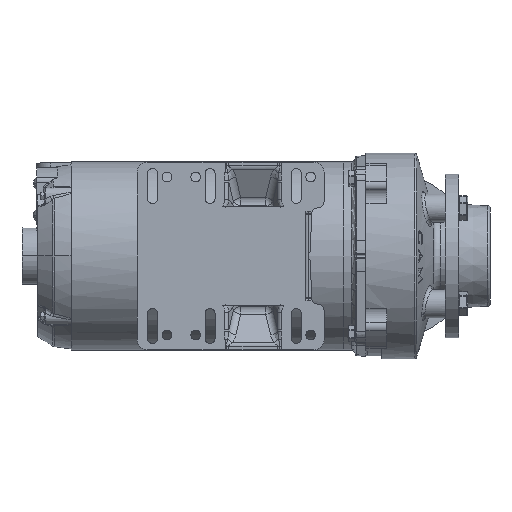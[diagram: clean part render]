
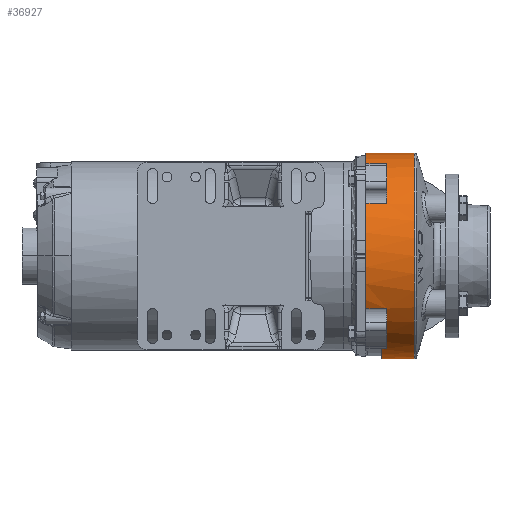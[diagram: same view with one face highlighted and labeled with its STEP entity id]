
A CAD part, front view. The second image highlights one B-rep face of the part: STEP entity #36927.
In plain terms, the highlighted cylindrical face has radius 90.836 mm (diameter 181.673 mm), a partial arc.
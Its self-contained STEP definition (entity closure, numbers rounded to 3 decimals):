
#225 = AXIS2_PLACEMENT_3D ( 'NONE', #49584, #40592, #33055 ) ;
#279 = LINE ( 'NONE', #21993, #41779 ) ;
#410 = VECTOR ( 'NONE', #41432, 1000. ) ;
#839 = EDGE_CURVE ( 'NONE', #45278, #23558, #279, .T. ) ;
#2620 = VERTEX_POINT ( 'NONE', #26430 ) ;
#2848 = CARTESIAN_POINT ( 'NONE',  ( -56.024, 0., -90.836 ) ) ;
#3101 = CARTESIAN_POINT ( 'NONE',  ( 0., 0., 90.836 ) ) ;
#3976 = DIRECTION ( 'NONE',  ( 1., 0., 0. ) ) ;
#5114 = ORIENTED_EDGE ( 'NONE', *, *, #29757, .F. ) ;
#5146 = AXIS2_PLACEMENT_3D ( 'NONE', #9804, #8936, #13267 ) ;
#6523 = CARTESIAN_POINT ( 'NONE',  ( -56.024, -49.656, -76.063 ) ) ;
#6528 = CARTESIAN_POINT ( 'NONE',  ( -51.49, -49.656, -76.063 ) ) ;
#6587 = VERTEX_POINT ( 'NONE', #15083 ) ;
#7428 = ORIENTED_EDGE ( 'NONE', *, *, #32690, .T. ) ;
#7457 = DIRECTION ( 'NONE',  ( 0., 0., 1. ) ) ;
#7465 = CARTESIAN_POINT ( 'NONE',  ( -56.024, 0., 0. ) ) ;
#7914 = ORIENTED_EDGE ( 'NONE', *, *, #42080, .F. ) ;
#8484 = DIRECTION ( 'NONE',  ( 0., 0., -1. ) ) ;
#8755 = ORIENTED_EDGE ( 'NONE', *, *, #37510, .F. ) ;
#8936 = DIRECTION ( 'NONE',  ( -1., 0., 0. ) ) ;
#9804 = CARTESIAN_POINT ( 'NONE',  ( -51.49, 0., 0. ) ) ;
#9824 = LINE ( 'NONE', #45155, #33592 ) ;
#10189 = AXIS2_PLACEMENT_3D ( 'NONE', #7465, #25450, #25157 ) ;
#10204 = EDGE_CURVE ( 'NONE', #2620, #50338, #51221, .T. ) ;
#10280 = CARTESIAN_POINT ( 'NONE',  ( -70.004, 0., 90.836 ) ) ;
#11840 = ORIENTED_EDGE ( 'NONE', *, *, #839, .T. ) ;
#12468 = EDGE_CURVE ( 'NONE', #24437, #48344, #15780, .T. ) ;
#13267 = DIRECTION ( 'NONE',  ( 0., 0., -1. ) ) ;
#15083 = CARTESIAN_POINT ( 'NONE',  ( -70.004, -53.057, -73.73 ) ) ;
#15393 = ORIENTED_EDGE ( 'NONE', *, *, #37356, .T. ) ;
#15460 = VERTEX_POINT ( 'NONE', #47591 ) ;
#15694 = CARTESIAN_POINT ( 'NONE',  ( 0., -49.656, -76.063 ) ) ;
#15780 = CIRCLE ( 'NONE', #10189, 90.836 ) ;
#15872 = DIRECTION ( 'NONE',  ( 1., 0., 0. ) ) ;
#15986 = CIRCLE ( 'NONE', #53001, 90.836 ) ;
#16120 = CIRCLE ( 'NONE', #31908, 90.836 ) ;
#16417 = CARTESIAN_POINT ( 'NONE',  ( -26.996, 0., -90.836 ) ) ;
#16482 = CARTESIAN_POINT ( 'NONE',  ( -51.49, -46.541, 78.008 ) ) ;
#16878 = CARTESIAN_POINT ( 'NONE',  ( -70., 0., 0. ) ) ;
#17037 = DIRECTION ( 'NONE',  ( -1., 0., 0. ) ) ;
#18006 = CIRCLE ( 'NONE', #25437, 90.836 ) ;
#18039 = AXIS2_PLACEMENT_3D ( 'NONE', #33871, #17037, #34725 ) ;
#18062 = AXIS2_PLACEMENT_3D ( 'NONE', #21975, #52952, #48620 ) ;
#18176 = DIRECTION ( 'NONE',  ( 1., 0., 0. ) ) ;
#18206 = CARTESIAN_POINT ( 'NONE',  ( -70., -53.057, -73.73 ) ) ;
#20616 = DIRECTION ( 'NONE',  ( -1., 0., 0. ) ) ;
#21027 = EDGE_CURVE ( 'NONE', #23558, #2620, #18006, .T. ) ;
#21691 = VECTOR ( 'NONE', #18176, 1000. ) ;
#21975 = CARTESIAN_POINT ( 'NONE',  ( -51.49, 0., 0. ) ) ;
#21993 = CARTESIAN_POINT ( 'NONE',  ( 0., -78.008, 46.541 ) ) ;
#22635 = CARTESIAN_POINT ( 'NONE',  ( -26.996, 0., 90.836 ) ) ;
#23524 = FACE_OUTER_BOUND ( 'NONE', #26693, .T. ) ;
#23558 = VERTEX_POINT ( 'NONE', #38494 ) ;
#24310 = CARTESIAN_POINT ( 'NONE',  ( -70.004, 0., 0. ) ) ;
#24437 = VERTEX_POINT ( 'NONE', #2848 ) ;
#24579 = CIRCLE ( 'NONE', #18039, 90.836 ) ;
#24604 = DIRECTION ( 'NONE',  ( -1., 0., 0. ) ) ;
#25157 = DIRECTION ( 'NONE',  ( 0., 0., 1. ) ) ;
#25437 = AXIS2_PLACEMENT_3D ( 'NONE', #16878, #26452, #8484 ) ;
#25450 = DIRECTION ( 'NONE',  ( -1., 0., 0. ) ) ;
#25530 = CIRCLE ( 'NONE', #5146, 90.836 ) ;
#25959 = VECTOR ( 'NONE', #3976, 1000. ) ;
#26015 = VECTOR ( 'NONE', #20616, 1000. ) ;
#26430 = CARTESIAN_POINT ( 'NONE',  ( -70., -46.541, 78.008 ) ) ;
#26452 = DIRECTION ( 'NONE',  ( -1., 0., 0. ) ) ;
#26596 = LINE ( 'NONE', #40212, #21691 ) ;
#26693 = EDGE_LOOP ( 'NONE', ( #5114, #47609, #48851, #8755, #7428, #34332, #15393, #52102, #31344, #32085 ) ) ;
#27859 = EDGE_CURVE ( 'NONE', #34374, #48113, #37861, .T. ) ;
#29466 = DIRECTION ( 'NONE',  ( -1., 0., 0. ) ) ;
#29757 = EDGE_CURVE ( 'NONE', #36215, #24437, #33020, .T. ) ;
#31344 = ORIENTED_EDGE ( 'NONE', *, *, #48428, .T. ) ;
#31908 = AXIS2_PLACEMENT_3D ( 'NONE', #47720, #52044, #47422 ) ;
#32085 = ORIENTED_EDGE ( 'NONE', *, *, #12468, .F. ) ;
#32268 = ORIENTED_EDGE ( 'NONE', *, *, #10204, .T. ) ;
#32294 = CARTESIAN_POINT ( 'NONE',  ( -51.49, -78.008, 46.541 ) ) ;
#32646 = ORIENTED_EDGE ( 'NONE', *, *, #21027, .T. ) ;
#32690 = EDGE_CURVE ( 'NONE', #6587, #36154, #26596, .T. ) ;
#33020 = LINE ( 'NONE', #50410, #410 ) ;
#33055 = DIRECTION ( 'NONE',  ( 0., 0., 1. ) ) ;
#33276 = EDGE_CURVE ( 'NONE', #36154, #55747, #24579, .T. ) ;
#33592 = VECTOR ( 'NONE', #15872, 1000. ) ;
#33871 = CARTESIAN_POINT ( 'NONE',  ( -70., 0., 0. ) ) ;
#34332 = ORIENTED_EDGE ( 'NONE', *, *, #33276, .T. ) ;
#34374 = VERTEX_POINT ( 'NONE', #22635 ) ;
#34725 = DIRECTION ( 'NONE',  ( 0., 0., -1. ) ) ;
#35880 = DIRECTION ( 'NONE',  ( -1., 0., 0. ) ) ;
#36154 = VERTEX_POINT ( 'NONE', #18206 ) ;
#36215 = VERTEX_POINT ( 'NONE', #16417 ) ;
#36927 = ADVANCED_FACE ( 'NONE', ( #23524, #37103 ), #41188, .T. ) ;
#37103 = FACE_BOUND ( 'NONE', #53918, .T. ) ;
#37356 = EDGE_CURVE ( 'NONE', #55747, #15460, #9824, .T. ) ;
#37510 = EDGE_CURVE ( 'NONE', #6587, #48113, #15986, .T. ) ;
#37861 = LINE ( 'NONE', #3101, #46560 ) ;
#38011 = LINE ( 'NONE', #15694, #26015 ) ;
#38494 = CARTESIAN_POINT ( 'NONE',  ( -70., -78.008, 46.541 ) ) ;
#39185 = CARTESIAN_POINT ( 'NONE',  ( -70., -78.008, -46.541 ) ) ;
#40212 = CARTESIAN_POINT ( 'NONE',  ( -70.004, -53.057, -73.73 ) ) ;
#40592 = DIRECTION ( 'NONE',  ( -1., 0., 0. ) ) ;
#41188 = CYLINDRICAL_SURFACE ( 'NONE', #225, 90.836 ) ;
#41307 = EDGE_CURVE ( 'NONE', #42594, #15460, #45831, .T. ) ;
#41432 = DIRECTION ( 'NONE',  ( -1., 0., 0. ) ) ;
#41779 = VECTOR ( 'NONE', #35880, 1000. ) ;
#42080 = EDGE_CURVE ( 'NONE', #45278, #50338, #25530, .T. ) ;
#42594 = VERTEX_POINT ( 'NONE', #6528 ) ;
#45155 = CARTESIAN_POINT ( 'NONE',  ( 0., -78.008, -46.541 ) ) ;
#45278 = VERTEX_POINT ( 'NONE', #32294 ) ;
#45831 = CIRCLE ( 'NONE', #18062, 90.836 ) ;
#46560 = VECTOR ( 'NONE', #29466, 1000. ) ;
#47422 = DIRECTION ( 'NONE',  ( 0., 0., -1. ) ) ;
#47591 = CARTESIAN_POINT ( 'NONE',  ( -51.49, -78.008, -46.541 ) ) ;
#47609 = ORIENTED_EDGE ( 'NONE', *, *, #53530, .T. ) ;
#47720 = CARTESIAN_POINT ( 'NONE',  ( -26.996, 0., 0. ) ) ;
#48113 = VERTEX_POINT ( 'NONE', #10280 ) ;
#48344 = VERTEX_POINT ( 'NONE', #6523 ) ;
#48428 = EDGE_CURVE ( 'NONE', #42594, #48344, #38011, .T. ) ;
#48620 = DIRECTION ( 'NONE',  ( 0., 0., -1. ) ) ;
#48851 = ORIENTED_EDGE ( 'NONE', *, *, #27859, .T. ) ;
#49584 = CARTESIAN_POINT ( 'NONE',  ( 0., 0., 0. ) ) ;
#50338 = VERTEX_POINT ( 'NONE', #16482 ) ;
#50410 = CARTESIAN_POINT ( 'NONE',  ( 0., 0., -90.836 ) ) ;
#51221 = LINE ( 'NONE', #51498, #25959 ) ;
#51498 = CARTESIAN_POINT ( 'NONE',  ( 0., -46.541, 78.008 ) ) ;
#52044 = DIRECTION ( 'NONE',  ( -1., 0., 0. ) ) ;
#52102 = ORIENTED_EDGE ( 'NONE', *, *, #41307, .F. ) ;
#52952 = DIRECTION ( 'NONE',  ( -1., 0., 0. ) ) ;
#53001 = AXIS2_PLACEMENT_3D ( 'NONE', #24310, #24604, #7457 ) ;
#53530 = EDGE_CURVE ( 'NONE', #36215, #34374, #16120, .T. ) ;
#53918 = EDGE_LOOP ( 'NONE', ( #7914, #11840, #32646, #32268 ) ) ;
#55747 = VERTEX_POINT ( 'NONE', #39185 ) ;
